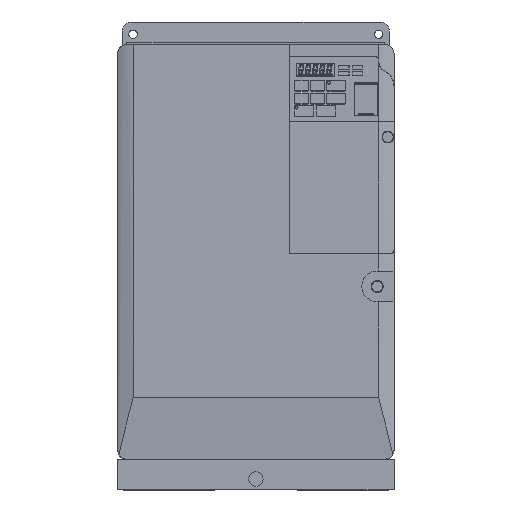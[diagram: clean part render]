
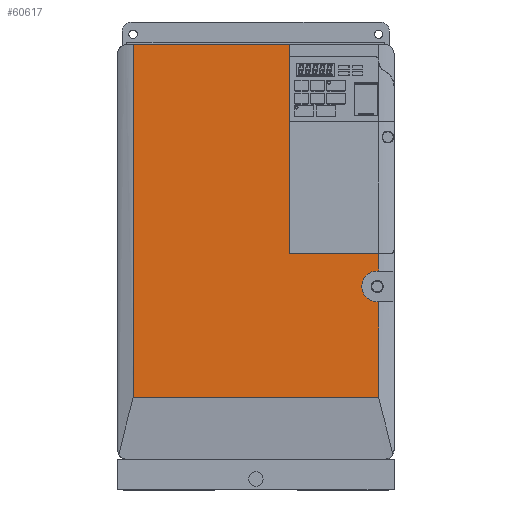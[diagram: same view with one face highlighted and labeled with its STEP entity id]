
A CAD part, top view. The second image highlights one B-rep face of the part: STEP entity #60617.
In plain terms, the highlighted planar face has unit normal (0, 0, 1).
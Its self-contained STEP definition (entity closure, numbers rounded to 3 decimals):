
#59911=DIRECTION('',(1.,0.,0.));
#59912=VECTOR('',#59911,58.);
#59913=CARTESIAN_POINT('',(22.,134.,11.));
#59914=LINE('',#59913,#59912);
#59923=DIRECTION('',(0.,-1.,0.));
#59924=VECTOR('',#59923,11.5);
#59925=CARTESIAN_POINT('',(80.,134.,11.));
#59926=LINE('',#59925,#59924);
#59927=DIRECTION('',(-1.,0.,0.));
#59928=VECTOR('',#59927,1.);
#59929=CARTESIAN_POINT('',(80.,122.5,11.));
#59930=LINE('',#59929,#59928);
#59944=DIRECTION('',(-1.,0.,0.));
#59945=VECTOR('',#59944,102.);
#59946=CARTESIAN_POINT('',(22.,270.,11.));
#59947=LINE('',#59946,#59945);
#59948=CARTESIAN_POINT('',(79.,112.5,11.));
#59949=DIRECTION('',(0.,0.,-1.));
#59950=DIRECTION('',(-1.,0.,0.));
#59951=AXIS2_PLACEMENT_3D('',#59948,#59949,#59950);
#59953=CARTESIAN_POINT('',(79.,112.5,11.));
#59954=DIRECTION('',(0.,0.,-1.));
#59955=DIRECTION('',(0.,-1.,0.));
#59956=AXIS2_PLACEMENT_3D('',#59953,#59954,#59955);
#59967=DIRECTION('',(1.,0.,0.));
#59968=VECTOR('',#59967,1.);
#59969=CARTESIAN_POINT('',(79.,102.5,11.));
#59970=LINE('',#59969,#59968);
#59975=DIRECTION('',(0.,-1.,0.));
#59976=VECTOR('',#59975,62.5);
#59977=CARTESIAN_POINT('',(80.,102.5,11.));
#59978=LINE('',#59977,#59976);
#59990=CARTESIAN_POINT('',(80.,40.,11.));
#60026=DIRECTION('',(0.,-1.,0.));
#60027=VECTOR('',#60026,136.);
#60028=CARTESIAN_POINT('',(22.,270.,11.));
#60029=LINE('',#60028,#60027);
#60048=DIRECTION('',(0.,1.,0.));
#60049=VECTOR('',#60048,230.);
#60050=CARTESIAN_POINT('',(-80.,40.,11.));
#60051=LINE('',#60050,#60049);
#60086=DIRECTION('',(-1.,0.,0.));
#60087=VECTOR('',#60086,160.);
#60088=CARTESIAN_POINT('',(80.,40.,11.));
#60089=LINE('',#60088,#60087);
#60187=CARTESIAN_POINT('',(69.,112.5,11.));
#60189=VERTEX_POINT('',#60187);
#60192=CARTESIAN_POINT('',(79.,122.5,11.));
#60193=VERTEX_POINT('',#60192);
#60218=CARTESIAN_POINT('',(-80.,40.,11.));
#60219=CARTESIAN_POINT('',(-80.,270.,11.));
#60220=VERTEX_POINT('',#60218);
#60221=VERTEX_POINT('',#60219);
#60225=VERTEX_POINT('',#59990);
#60227=CARTESIAN_POINT('',(79.,102.5,11.));
#60229=VERTEX_POINT('',#60227);
#60238=CARTESIAN_POINT('',(80.,122.5,11.));
#60239=VERTEX_POINT('',#60238);
#60245=CARTESIAN_POINT('',(80.,134.,11.));
#60246=VERTEX_POINT('',#60245);
#60247=CARTESIAN_POINT('',(22.,134.,11.));
#60248=VERTEX_POINT('',#60247);
#60249=CARTESIAN_POINT('',(22.,270.,11.));
#60250=VERTEX_POINT('',#60249);
#60251=CARTESIAN_POINT('',(80.,102.5,11.));
#60252=VERTEX_POINT('',#60251);
#60591=CARTESIAN_POINT('',(0.263,135.393,11.));
#60592=DIRECTION('',(0.,0.,1.));
#60593=DIRECTION('',(1.,0.,0.));
#60594=AXIS2_PLACEMENT_3D('',#60591,#60592,#60593);
#60595=PLANE('',#60594);
#60597=ORIENTED_EDGE('',*,*,#60596,.T.);
#60599=ORIENTED_EDGE('',*,*,#60598,.T.);
#60601=ORIENTED_EDGE('',*,*,#60600,.T.);
#60603=ORIENTED_EDGE('',*,*,#60602,.T.);
#60605=ORIENTED_EDGE('',*,*,#60604,.F.);
#60607=ORIENTED_EDGE('',*,*,#60606,.T.);
#60608=ORIENTED_EDGE('',*,*,#60553,.T.);
#60609=ORIENTED_EDGE('',*,*,#60569,.T.);
#60610=ORIENTED_EDGE('',*,*,#60580,.T.);
#60612=ORIENTED_EDGE('',*,*,#60611,.F.);
#60614=ORIENTED_EDGE('',*,*,#60613,.F.);
#60615=EDGE_LOOP('',(#60597,#60599,#60601,#60603,#60605,#60607,#60608,#60609,
#60610,#60612,#60614));
#60616=FACE_OUTER_BOUND('',#60615,.F.);
#60617=ADVANCED_FACE('',(#60616),#60595,.T.);
#59952=CIRCLE('',#59951,10.);
#59957=CIRCLE('',#59956,10.);
#60553=EDGE_CURVE('',#60248,#60246,#59914,.T.);
#60569=EDGE_CURVE('',#60246,#60239,#59926,.T.);
#60580=EDGE_CURVE('',#60239,#60193,#59930,.T.);
#60596=EDGE_CURVE('',#60229,#60252,#59970,.T.);
#60598=EDGE_CURVE('',#60252,#60225,#59978,.T.);
#60600=EDGE_CURVE('',#60225,#60220,#60089,.T.);
#60602=EDGE_CURVE('',#60220,#60221,#60051,.T.);
#60604=EDGE_CURVE('',#60250,#60221,#59947,.T.);
#60606=EDGE_CURVE('',#60250,#60248,#60029,.T.);
#60611=EDGE_CURVE('',#60189,#60193,#59952,.T.);
#60613=EDGE_CURVE('',#60229,#60189,#59957,.T.);
